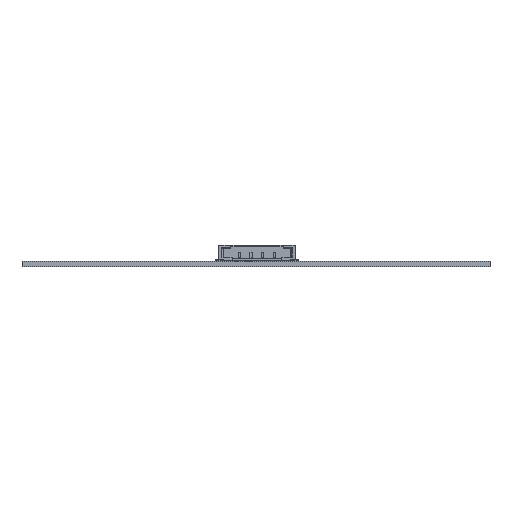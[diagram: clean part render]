
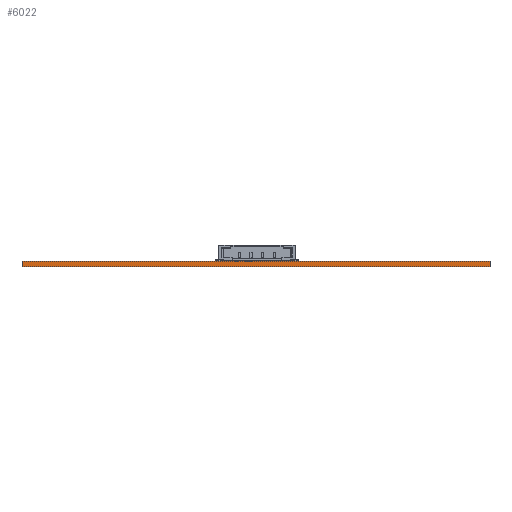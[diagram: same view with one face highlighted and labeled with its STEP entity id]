
A CAD part, left-side view. The second image highlights one B-rep face of the part: STEP entity #6022.
In plain terms, the highlighted planar face has unit normal (-1, 0, 0).
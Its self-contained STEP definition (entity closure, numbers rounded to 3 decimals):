
#5997 = VERTEX_POINT('',#5998);
#5998 = CARTESIAN_POINT('',(184.818,-157.355,0.71));
#6004 = EDGE_CURVE('',#6005,#5997,#6007,.T.);
#6005 = VERTEX_POINT('',#6006);
#6006 = CARTESIAN_POINT('',(184.818,-157.355,0.));
#6007 = LINE('',#6008,#6009);
#6008 = CARTESIAN_POINT('',(184.818,-157.355,0.));
#6009 = VECTOR('',#6010,1.);
#6010 = DIRECTION('',(0.,0.,1.));
#6022 = ADVANCED_FACE('',(#6023),#6048,.T.);
#6023 = FACE_BOUND('',#6024,.T.);
#6024 = EDGE_LOOP('',(#6025,#6026,#6034,#6042));
#6025 = ORIENTED_EDGE('',*,*,#6004,.T.);
#6026 = ORIENTED_EDGE('',*,*,#6027,.T.);
#6027 = EDGE_CURVE('',#5997,#6028,#6030,.T.);
#6028 = VERTEX_POINT('',#6029);
#6029 = CARTESIAN_POINT('',(184.818,-97.505,0.71));
#6030 = LINE('',#6031,#6032);
#6031 = CARTESIAN_POINT('',(184.818,-157.355,0.71));
#6032 = VECTOR('',#6033,1.);
#6033 = DIRECTION('',(0.,1.,0.));
#6034 = ORIENTED_EDGE('',*,*,#6035,.F.);
#6035 = EDGE_CURVE('',#6036,#6028,#6038,.T.);
#6036 = VERTEX_POINT('',#6037);
#6037 = CARTESIAN_POINT('',(184.818,-97.505,0.));
#6038 = LINE('',#6039,#6040);
#6039 = CARTESIAN_POINT('',(184.818,-97.505,0.));
#6040 = VECTOR('',#6041,1.);
#6041 = DIRECTION('',(0.,0.,1.));
#6042 = ORIENTED_EDGE('',*,*,#6043,.F.);
#6043 = EDGE_CURVE('',#6005,#6036,#6044,.T.);
#6044 = LINE('',#6045,#6046);
#6045 = CARTESIAN_POINT('',(184.818,-157.355,0.));
#6046 = VECTOR('',#6047,1.);
#6047 = DIRECTION('',(0.,1.,0.));
#6048 = PLANE('',#6049);
#6049 = AXIS2_PLACEMENT_3D('',#6050,#6051,#6052);
#6050 = CARTESIAN_POINT('',(184.818,-157.355,0.));
#6051 = DIRECTION('',(-1.,0.,0.));
#6052 = DIRECTION('',(0.,1.,0.));
